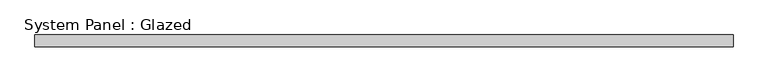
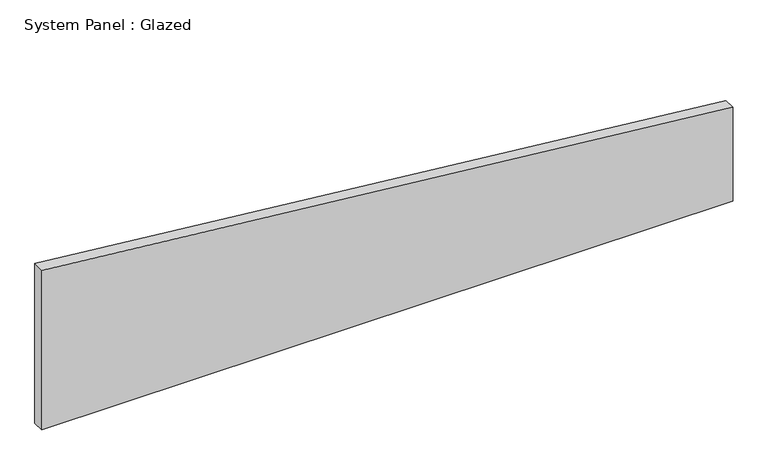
"""IFC4 building model written with IfcOpenShell, lengths in millimetres: plate geometry, System Panel : Glazed."""

from ifc_helpers import new_model, si_unit, frame, origin, place, context, project, spatial, polyline, outline, extrude, source, transform, mapped, element, save


def system_panel_glazed_d2ef538a(model_context):
    return source(origin(), model_context, "Body", "SweptSolid", [
        extrude(outline(polyline([(0.0, -735.8695652), (0.0, 735.8695652), (211.5546553, 735.8695652), (359.5376341, -735.8695652), (0.0, -735.8695652)])), frame((0.0, 24.5, 0.0), z_axis=(0.0, 1.0, 0.0), x_axis=(0.0, 0.0, 1.0)), (0.0, 0.0, 1.0), 25.0),
    ])


if __name__ == "__main__":
    model = new_model("IFC4")
    model_context = context("Model", 3, world=origin())
    ifc_project = project(units=[si_unit("LENGTHUNIT", "METRE", prefix="MILLI")], contexts=[model_context])
    site = spatial("IfcSite", under=ifc_project)
    building = spatial("IfcBuilding", under=site)
    placement = place(None, origin())
    system_panel_glazed_shape = system_panel_glazed_d2ef538a(model_context)
    element("IfcPlate", 1, ObjectType="System Panel : Glazed", at=placement, inside=building, context=model_context, shape_type="MappedRepresentation", body=[
        mapped(system_panel_glazed_shape, transform((0.0, 0.0, 0.0), x_axis=(1.0, 0.0, 0.0), y_axis=(0.0, 1.0, 0.0), z_axis=(0.0, 0.0, 1.0))),
    ])
    save(model, "model.ifc")
